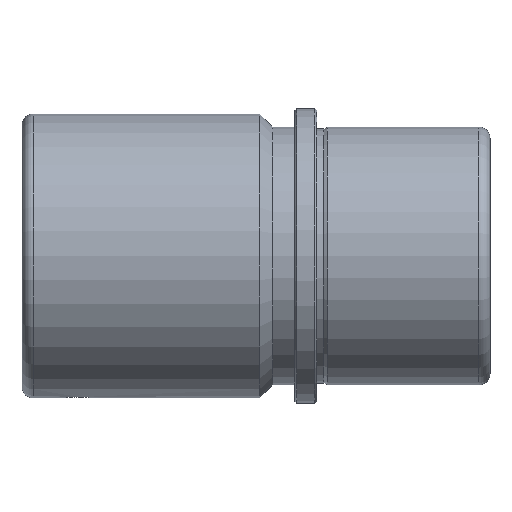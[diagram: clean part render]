
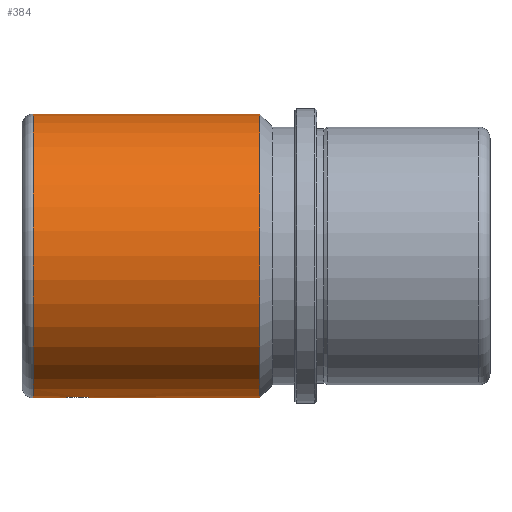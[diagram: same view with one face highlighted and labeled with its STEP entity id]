
A CAD part, top view. The second image highlights one B-rep face of the part: STEP entity #384.
In plain terms, the highlighted cylindrical face has radius 38.5 mm (diameter 77 mm), a full revolution.
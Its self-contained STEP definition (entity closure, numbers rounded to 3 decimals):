
#33=CIRCLE('',#433,38.5);
#34=CIRCLE('',#434,38.5);
#37=CIRCLE('',#438,38.5);
#62=FACE_OUTER_BOUND('',#85,.T.);
#85=EDGE_LOOP('',(#261,#262,#263,#264,#265,#266,#267,#268,#269));
#107=LINE('',#695,#125);
#108=LINE('',#696,#126);
#125=VECTOR('',#508,38.5);
#126=VECTOR('',#509,38.5);
#141=B_SPLINE_CURVE_WITH_KNOTS('',3,(#590,#591,#592,#593,#594,#595,#596,
#597,#598,#599,#600,#601,#602,#603,#604,#605,#606,#607),.UNSPECIFIED.,.F.,
 .F.,(4,2,2,2,2,2,2,2,4),(0.603,0.754,0.905,
1.056,1.206,1.357,1.508,1.659,
1.809),.UNSPECIFIED.);
#145=B_SPLINE_CURVE_WITH_KNOTS('',3,(#650,#651,#652,#653,#654,#655,#656,
#657,#658,#659,#660,#661,#662,#663,#664,#665,#666,#667,#668),
 .UNSPECIFIED.,.F.,.F.,(4,2,2,2,3,2,2,2,4),(1.809,1.96,
2.111,2.262,2.413,2.563,2.714,
2.865,3.016),.UNSPECIFIED.);
#151=VERTEX_POINT('',#588);
#152=VERTEX_POINT('',#589);
#161=VERTEX_POINT('',#685);
#162=VERTEX_POINT('',#686);
#164=VERTEX_POINT('',#693);
#183=EDGE_CURVE('',#151,#152,#141,.T.);
#188=EDGE_CURVE('',#152,#151,#145,.T.);
#196=EDGE_CURVE('',#161,#162,#33,.T.);
#197=EDGE_CURVE('',#162,#161,#34,.T.);
#200=EDGE_CURVE('',#164,#164,#37,.T.);
#201=EDGE_CURVE('',#164,#151,#107,.T.);
#202=EDGE_CURVE('',#152,#162,#108,.T.);
#261=ORIENTED_EDGE('',*,*,#200,.F.);
#262=ORIENTED_EDGE('',*,*,#201,.T.);
#263=ORIENTED_EDGE('',*,*,#183,.T.);
#264=ORIENTED_EDGE('',*,*,#202,.T.);
#265=ORIENTED_EDGE('',*,*,#196,.F.);
#266=ORIENTED_EDGE('',*,*,#197,.F.);
#267=ORIENTED_EDGE('',*,*,#202,.F.);
#268=ORIENTED_EDGE('',*,*,#188,.T.);
#269=ORIENTED_EDGE('',*,*,#201,.F.);
#347=CYLINDRICAL_SURFACE('',#437,38.5);
#384=ADVANCED_FACE('',(#62),#347,.T.);
#433=AXIS2_PLACEMENT_3D('',#687,#496,#497);
#434=AXIS2_PLACEMENT_3D('',#688,#498,#499);
#437=AXIS2_PLACEMENT_3D('',#692,#504,#505);
#438=AXIS2_PLACEMENT_3D('',#694,#506,#507);
#496=DIRECTION('center_axis',(-1.,0.,0.));
#497=DIRECTION('ref_axis',(0.,-1.,0.));
#498=DIRECTION('center_axis',(-1.,0.,0.));
#499=DIRECTION('ref_axis',(0.,-1.,0.));
#504=DIRECTION('center_axis',(1.,0.,0.));
#505=DIRECTION('ref_axis',(0.,1.,0.));
#506=DIRECTION('center_axis',(1.,0.,0.));
#507=DIRECTION('ref_axis',(0.,0.,-1.));
#508=DIRECTION('',(-1.,0.,0.));
#509=DIRECTION('',(-1.,0.,0.));
#588=CARTESIAN_POINT('',(19.,-38.5,0.));
#589=CARTESIAN_POINT('',(11.,-38.5,0.));
#590=CARTESIAN_POINT('Ctrl Pts',(19.,-38.5,0.));
#591=CARTESIAN_POINT('Ctrl Pts',(19.,-38.5,-0.503));
#592=CARTESIAN_POINT('Ctrl Pts',(18.899,-38.489,-1.039));
#593=CARTESIAN_POINT('Ctrl Pts',(18.491,-38.45,-2.024));
#594=CARTESIAN_POINT('Ctrl Pts',(18.183,-38.422,-2.473));
#595=CARTESIAN_POINT('Ctrl Pts',(17.473,-38.37,-3.183));
#596=CARTESIAN_POINT('Ctrl Pts',(17.024,-38.342,-3.491));
#597=CARTESIAN_POINT('Ctrl Pts',(16.039,-38.303,-3.899));
#598=CARTESIAN_POINT('Ctrl Pts',(15.503,-38.292,-4.));
#599=CARTESIAN_POINT('Ctrl Pts',(14.497,-38.292,-4.));
#600=CARTESIAN_POINT('Ctrl Pts',(13.961,-38.303,-3.899));
#601=CARTESIAN_POINT('Ctrl Pts',(12.976,-38.342,-3.491));
#602=CARTESIAN_POINT('Ctrl Pts',(12.527,-38.37,-3.183));
#603=CARTESIAN_POINT('Ctrl Pts',(11.817,-38.422,-2.473));
#604=CARTESIAN_POINT('Ctrl Pts',(11.509,-38.45,-2.024));
#605=CARTESIAN_POINT('Ctrl Pts',(11.101,-38.489,-1.039));
#606=CARTESIAN_POINT('Ctrl Pts',(11.,-38.5,-0.503));
#607=CARTESIAN_POINT('Ctrl Pts',(11.,-38.5,0.));
#650=CARTESIAN_POINT('Ctrl Pts',(11.,-38.5,0.));
#651=CARTESIAN_POINT('Ctrl Pts',(11.,-38.5,0.503));
#652=CARTESIAN_POINT('Ctrl Pts',(11.101,-38.489,1.039));
#653=CARTESIAN_POINT('Ctrl Pts',(11.509,-38.45,2.024));
#654=CARTESIAN_POINT('Ctrl Pts',(11.817,-38.422,2.473));
#655=CARTESIAN_POINT('Ctrl Pts',(12.527,-38.37,3.183));
#656=CARTESIAN_POINT('Ctrl Pts',(12.976,-38.342,3.491));
#657=CARTESIAN_POINT('Ctrl Pts',(13.961,-38.303,3.899));
#658=CARTESIAN_POINT('Ctrl Pts',(14.497,-38.292,4.));
#659=CARTESIAN_POINT('Ctrl Pts',(15.,-38.292,4.));
#660=CARTESIAN_POINT('Ctrl Pts',(15.503,-38.292,4.));
#661=CARTESIAN_POINT('Ctrl Pts',(16.039,-38.303,3.899));
#662=CARTESIAN_POINT('Ctrl Pts',(17.024,-38.342,3.491));
#663=CARTESIAN_POINT('Ctrl Pts',(17.473,-38.37,3.183));
#664=CARTESIAN_POINT('Ctrl Pts',(18.183,-38.422,2.473));
#665=CARTESIAN_POINT('Ctrl Pts',(18.491,-38.45,2.024));
#666=CARTESIAN_POINT('Ctrl Pts',(18.899,-38.489,1.039));
#667=CARTESIAN_POINT('Ctrl Pts',(19.,-38.5,0.503));
#668=CARTESIAN_POINT('Ctrl Pts',(19.,-38.5,0.));
#685=CARTESIAN_POINT('',(3.,0.,38.5));
#686=CARTESIAN_POINT('',(3.,-38.5,0.));
#687=CARTESIAN_POINT('Origin',(3.,0.,0.));
#688=CARTESIAN_POINT('Origin',(3.,0.,0.));
#692=CARTESIAN_POINT('Origin',(32.25,0.,0.));
#693=CARTESIAN_POINT('',(64.5,-38.5,0.));
#694=CARTESIAN_POINT('Origin',(64.5,0.,0.));
#695=CARTESIAN_POINT('',(32.25,-38.5,0.));
#696=CARTESIAN_POINT('',(32.25,-38.5,0.));
